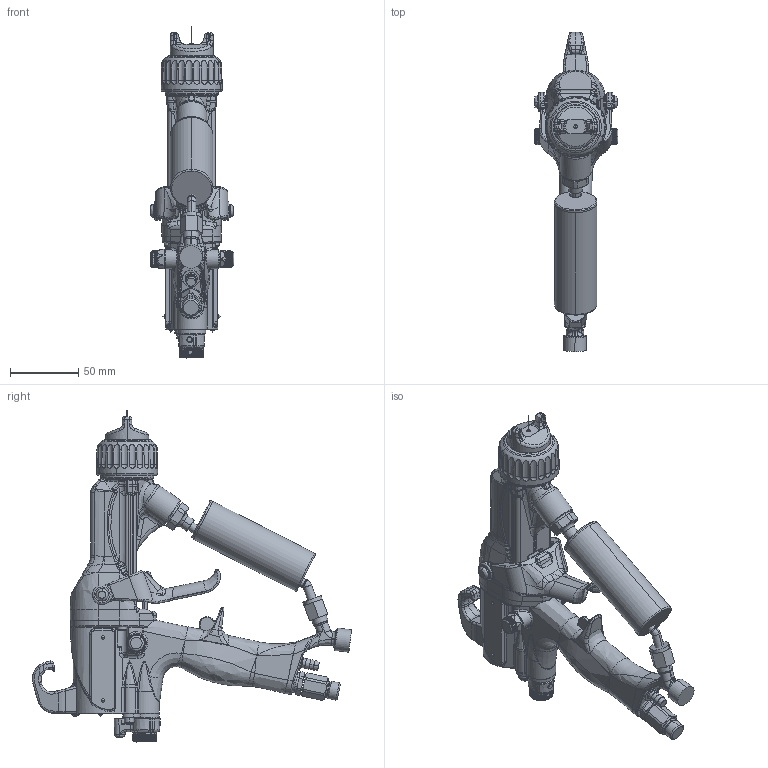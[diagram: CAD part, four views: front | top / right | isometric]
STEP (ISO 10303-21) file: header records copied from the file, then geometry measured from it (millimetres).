
FILE_DESCRIPTION((''),'2;1');
FILE_NAME('L60T16-EN-T_PRT','2020-05-18T18:13:56',('qusrh3'),(''),'CREO PARAMETRIC BY PTC INC, 2019030','CREO PARAMETRIC BY PTC INC, 2019030','');
FILE_SCHEMA(('CONFIG_CONTROL_DESIGN'));
Length unit declared in the file: inch
Products named in the file (1): L60T16-EN-T_PRT
Bounding box: 61.27 x 233.22 x 242.52 mm (x, y, z)
Surface area: 95450 mm2 (no closed solid volume)
Topology: 0 solids, 68 shells, 2677 faces, 7399 edges, 4641 vertices
Faces by surface type: bspline 867, cylinder 688, plane 563, torus 260, cone 237, sphere 58, extrusion 4
Entity records: 129427 total; most frequent: CARTESIAN_POINT 70478, ORIENTED_EDGE 13418, DIRECTION 10128, EDGE_CURVE 7390, VERTEX_POINT 4641, AXIS2_PLACEMENT_3D 4108, B_SPLINE_CURVE_WITH_KNOTS 3184, EDGE_LOOP 2677
